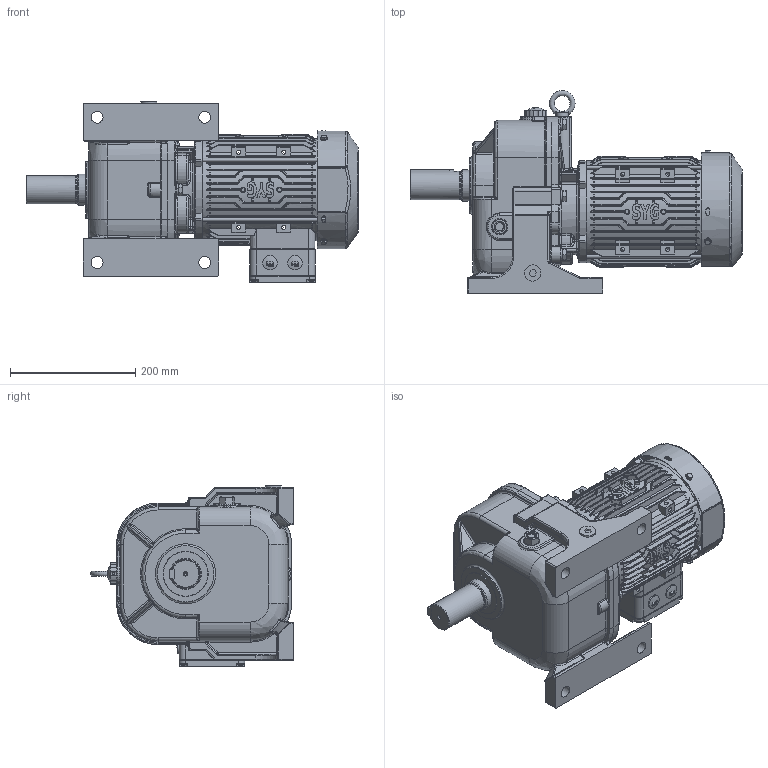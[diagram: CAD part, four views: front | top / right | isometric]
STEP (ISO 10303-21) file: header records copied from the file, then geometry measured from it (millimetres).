
FILE_DESCRIPTION(/* description */ (''),/* implementation_level */ '2;1');
FILE_NAME(/* name */ 'D:\▼ 3D：MG\01. 내부 직접 검토품\MG 172\외형도용 - ASS''Y\SK2\MG1720A - OUTLINE (SK2，HT，1.5kW).stp',/* time_stamp */ '2026-04-13T15:14:18+09:00',/* author */ ('이정훈'),/* organization */ (''),/* preprocessor_version */ 'ST-DEVELOPER v18.1',/* originating_system */ 'Autodesk Inventor 2022',/* authorisation */ '');
FILE_SCHEMA (('AUTOMOTIVE_DESIGN { 1 0 10303 214 3 1 1 }'));
Products named in the file (1): MG1720A - OUTLINE (SK2，HT，1.5kW
)
Bounding box: 530 x 323.5 x 288.9 mm (x, y, z)
Volume: 14475898 mm3; surface area: 800549.6 mm2
Topology: 5 solids, 5 shells, 4954 faces, 12791 edges, 7866 vertices
Faces by surface type: plane 2093, cylinder 1336, bspline 953, cone 267, torus 193, sphere 112
Full cylindrical faces by diameter (mm): 2 x2, 3.504 x1, 4 x1, 4.8 x3, 5 x3, 6 x12, 9.5 x4, 10 x8, 10.5 x3, 12 x7, 13 x4, 13.097 x1, 19 x4, 23 x3, 25 x1, 26 x2, 26.194 x1, 37 x1, 38 x1, 44.4 x1, 45 x1, 50 x1, 52 x1, 72 x1, 90 x1, 101 x1, 105 x1, 163 x2
Entity records: 202286 total; most frequent: CARTESIAN_POINT 85288, ORIENTED_EDGE 25426, DIRECTION 23221, EDGE_CURVE 12713, AXIS2_PLACEMENT_3D 8642, VERTEX_POINT 7878, LINE 5937, VECTOR 5937
